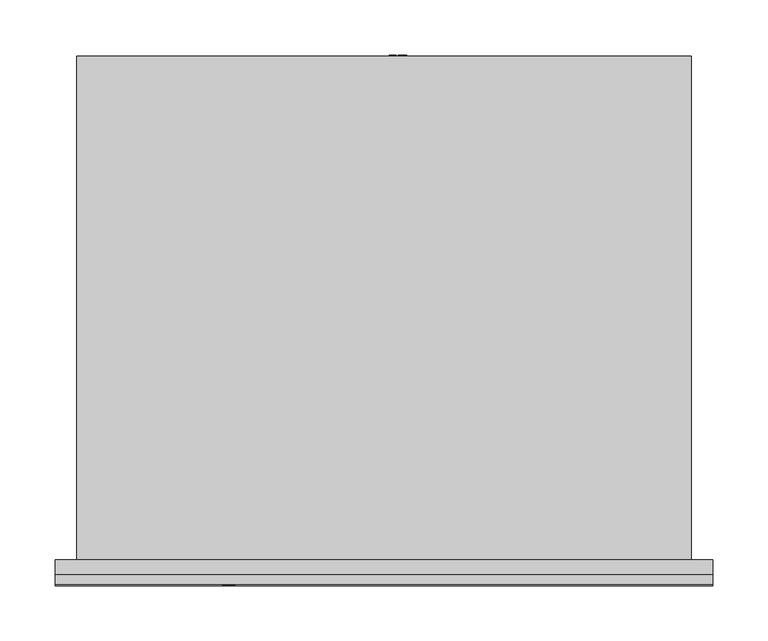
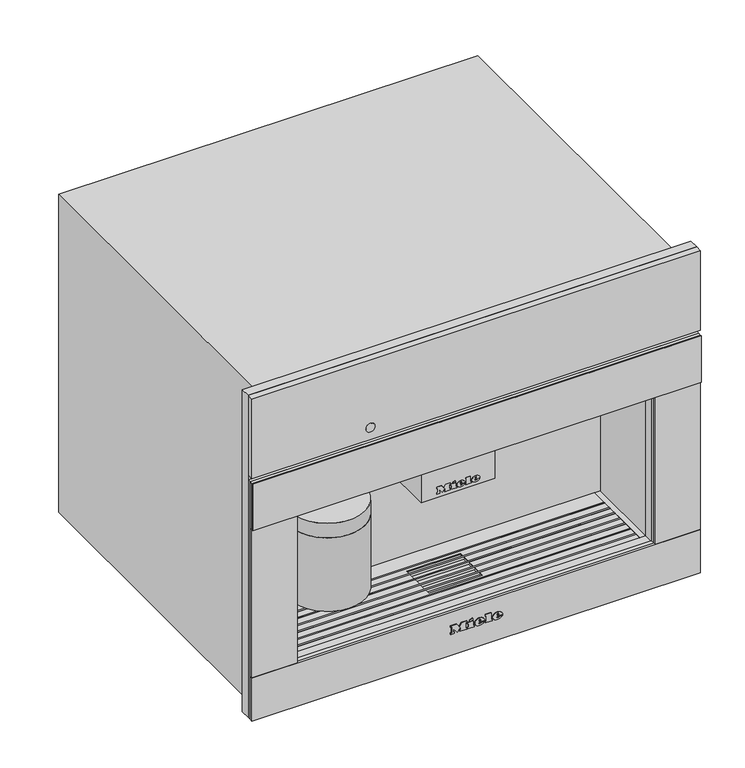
"""IFC4 building model written with IfcOpenShell, lengths in millimetres: proxy geometry, 11165880_NER_CVA7440_EDST-CLST : 29744040_NER_11165880_CVA7440_EDST-CLST."""

from ifc_helpers import new_model, si_unit, point, frame, frame_2d, origin, place, context, project, spatial, polyline, circle_curve, ellipse_curve, trimmed, segment, composite_curve, outline, extrude, faceted_brep, source, transform, mapped, element, save
from ifc_brep_helpers import plane_surface, cylinder_surface, revolved_surface, extruded_surface, advanced_brep


def specialty_equipment_4403b52b(model_context):
    return source(origin(), model_context, "Body", "SolidModel", [
        extrude(outline(composite_curve([segment(trimmed(circle_curve(frame_2d((-14.0, 36.5)), 5.0), [point((-9.0, 36.5))], [point((-19.0, 36.5))], False, "CARTESIAN"), True, "CONTINUOUS"), segment(trimmed(circle_curve(frame_2d((-14.0, 36.5)), 5.0), [point((-19.0, 36.5))], [point((-9.0, 36.5))], False, "CARTESIAN"), True, "CONTINUOUS")], self_intersect=False)), frame((0.0, 0.0, 193.0), z_axis=(0.0, 0.0, 1.0), x_axis=(1.0, 0.0, 0.0)), (0.0, 0.0, 1.0), 5.0),
        extrude(outline(composite_curve([segment(trimmed(circle_curve(frame_2d((14.0, 36.5)), 5.0), [point((19.0, 36.5))], [point((9.0, 36.5))], False, "CARTESIAN"), True, "CONTINUOUS"), segment(trimmed(circle_curve(frame_2d((14.0, 36.5)), 5.0), [point((9.0, 36.5))], [point((19.0, 36.5))], False, "CARTESIAN"), True, "CONTINUOUS")], self_intersect=False)), frame((0.0, 0.0, 193.0), z_axis=(0.0, 0.0, 1.0), x_axis=(1.0, 0.0, 0.0)), (0.0, 0.0, 1.0), 5.0),
        extrude(outline(composite_curve([segment(trimmed(circle_curve(frame_2d((-156.5, 49.5)), 50.0), [point((-106.5, 49.5))], [point((-206.5, 49.5))], False, "CARTESIAN"), True, "CONTINUOUS"), segment(trimmed(circle_curve(frame_2d((-156.5, 49.5)), 50.0), [point((-206.5, 49.5))], [point((-106.5, 49.5))], False, "CARTESIAN"), True, "CONTINUOUS")], self_intersect=False)), frame((0.0, 0.0, 100.0), z_axis=(0.0, 0.0, 1.0), x_axis=(1.0, 0.0, 0.0)), (0.0, 0.0, 1.0), 103.0),
        extrude(outline(polyline([(-49.0, 95.0), (49.0, 95.0), (49.0, 20.0), (-49.0, 20.0), (-49.0, 95.0)])), frame((0.0, 0.0, 198.0), z_axis=(0.0, 0.0, 1.0), x_axis=(1.0, 0.0, 0.0)), (0.0, 0.0, 1.0), 75.0),
        extrude(outline(polyline([(455.5, 297.5), (455.5, -297.5), (4.0, -297.5), (4.0, 297.5), (455.5, 297.5)]), holes=[polyline([(273.0, 237.5), (63.0, 237.5), (63.0, -237.5), (273.0, -237.5), (273.0, 237.5)])]), frame((0.0, -13.0, 0.0), z_axis=(0.0, 1.0, 0.0), x_axis=(0.0, 0.0, 1.0)), (0.0, 0.0, 1.0), 13.0),
        extrude(outline(polyline([(97.0, 20.4012141), (107.045631, 20.4012141), (107.045631, 13.1809168), (105.7899271, 13.1809168), (105.7899271, 19.1455102), (102.8076304, 19.1455102), (102.8076304, 13.4948427), (101.5519266, 13.4948427), (101.5519266, 19.1455102), (98.2557039, 19.1455102), (98.2557039, 13.0239538), (97.0, 13.0239538), (97.0, 20.4012141)])), frame((0.0, 456.0, 0.0), z_axis=(0.0, 1.0, 0.0), x_axis=(0.0, 0.0, 1.0)), (0.0, 0.0, 1.0), 1.0),
        extrude(outline(polyline([(97.0, 11.140398), (107.045631, 11.140398), (107.045631, 9.8846941), (98.2557039, 9.8846941), (98.2557039, 4.8618786), (97.0, 4.8618786), (97.0, 11.140398)])), frame((0.0, 456.0, 0.0), z_axis=(0.0, 1.0, 0.0), x_axis=(0.0, 0.0, 1.0)), (0.0, 0.0, 1.0), 1.0),
        advanced_brep(
        [(55.0, 425.5, 102.0), (55.0, 410.5, 102.0), (20.5239538, 425.5, 102.0), (5.5239538, 410.5, 102.0), (20.5239538, 456.0, 102.0), (5.5239538, 456.0, 102.0)],
        [
            (0, 1, circle_curve(frame((55.0, 418.0, 102.0), z_axis=(1.0, 0.0, 0.0), x_axis=(0.0, -1.0, 0.0)), 7.5)),
            (1, 0, circle_curve(frame((55.0, 418.0, 102.0), z_axis=(1.0, 0.0, 0.0), x_axis=(0.0, -1.0, 0.0)), 7.5)),
            (0, 2),
            (2, 3, ellipse_curve(frame((13.0239538, 418.0, 102.0), z_axis=(0.7071067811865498, -0.7071067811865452, 0.0), x_axis=(0.7071067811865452, 0.7071067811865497, 0.0)), 10.6066017, 7.5)),
            (3, 1),
            (3, 2, ellipse_curve(frame((13.0239538, 418.0, 102.0), z_axis=(0.7071067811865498, -0.7071067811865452, 0.0), x_axis=(0.7071067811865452, 0.7071067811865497, 0.0)), 10.6066017, 7.5)),
            (4, 5, circle_curve(frame((13.0239538, 456.0, 102.0), z_axis=(0.0, 1.0, 0.0), x_axis=(-1.0, 0.0, 0.0)), 7.5)),
            (5, 4, circle_curve(frame((13.0239538, 456.0, 102.0), z_axis=(0.0, 1.0, 0.0), x_axis=(-1.0, 0.0, 0.0)), 7.5)),
            (2, 4),
            (5, 3),
        ],
        [
            plane_surface(frame((55.0, 418.0, 102.0), z_axis=(1.0, 0.0, 0.0), x_axis=(0.0, 0.0, 1.0))),
            cylinder_surface(frame((55.0, 418.0, 102.0), z_axis=(1.0, 0.0, 0.0), x_axis=(0.0, -1.0, 0.0)), 7.5),
            plane_surface(frame((13.0239538, 456.0, 102.0), z_axis=(0.0, 1.0, 0.0), x_axis=(0.0, 0.0, 1.0))),
            cylinder_surface(frame((13.0239538, 418.0, 102.0), z_axis=(0.0, -1.0, 0.0), x_axis=(-1.0, 0.0, 0.0)), 7.5),
        ],
        [
            (0, [[1, 2]]),
            (1, [[-1, 3, 4, 5]]),
            (1, [[-2, -5, 6, -3]]),
            (2, [[7, 8]]),
            (3, [[-4, 9, -8, 10]]),
            (3, [[-6, -10, -7, -9]]),
        ],
    ),
        advanced_brep(
        [(-110.0, 49.5, 252.0), (-203.0, 49.5, 252.0), (-206.5, 49.5, 223.5), (-106.5, 49.5, 223.5), (-110.0, 49.5, 273.0), (-203.0, 49.5, 273.0), (-156.5, 49.5, 273.0), (-106.5, 49.5, 203.0), (-206.5, 49.5, 203.0), (-156.5, 49.5, 203.0)],
        [
            (0, 1, circle_curve(frame((-156.5, 49.5, 252.0), z_axis=(0.0, 0.0, -1.0), x_axis=(-1.0, 0.0, 0.0)), 46.5)),
            (1, 2, circle_curve(frame((-206.7961166, 49.5, 238.0012775), z_axis=(0.0, 1.0, 0.0), x_axis=(-1.0, 0.0, 0.0)), 14.5043005)),
            (2, 3, circle_curve(frame((-156.5, 49.5, 223.5), z_axis=(0.0, 0.0, 1.0), x_axis=(-1.0, 0.0, 0.0)), 50.0)),
            (3, 0, circle_curve(frame((-106.2038834, 49.5, 238.0012775), z_axis=(0.0, 1.0, 0.0), x_axis=(1.0, 0.0, 0.0)), 14.5043005)),
            (4, 5, circle_curve(frame((-156.5, 49.5, 273.0), z_axis=(0.0, 0.0, -1.0), x_axis=(-1.0, 0.0, 0.0)), 46.5)),
            (5, 1),
            (0, 4),
            (6, 4),
            (4, 5, circle_curve(frame((-156.5, 49.5, 273.0), z_axis=(0.0, 0.0, 1.0), x_axis=(-1.0, 0.0, 0.0)), 46.5)),
            (5, 6),
            (7, 8, circle_curve(frame((-156.5, 49.5, 203.0), z_axis=(0.0, 0.0, -1.0), x_axis=(-1.0, 0.0, 0.0)), 50.0)),
            (8, 9),
            (9, 7),
            (8, 7, circle_curve(frame((-156.5, 49.5, 203.0), z_axis=(0.0, 0.0, -1.0), x_axis=(-1.0, 0.0, 0.0)), 50.0)),
            (2, 8),
            (7, 3),
            (2, 3, circle_curve(frame((-156.5, 49.5, 223.5), z_axis=(0.0, 0.0, -1.0), x_axis=(-1.0, 0.0, 0.0)), 50.0)),
            (1, 0, circle_curve(frame((-156.5, 49.5, 252.0), z_axis=(0.0, 0.0, -1.0), x_axis=(-1.0, 0.0, 0.0)), 46.5)),
        ],
        [
            revolved_surface(trimmed(ellipse_curve(frame((-206.7961166, 49.5, 238.0012775), z_axis=(0.0, -1.0, 0.0), x_axis=(-1.0, 0.0, 0.0)), 14.5043005, 14.5043005), [point((-206.5, 49.5, 223.5))], [point((-203.0, 49.5, 252.0))], True, "CARTESIAN"), (-156.5, 49.5, 388.7361736), (0.0, 0.0, 1.0)),
            cylinder_surface(frame((-156.5, 49.5, 388.7361736), z_axis=(0.0, 0.0, 1.0), x_axis=(-1.0, 0.0, 0.0)), 46.5),
            plane_surface(frame((-156.5, 49.5, 273.0), z_axis=(0.0, 0.0, 1.0), x_axis=(-1.0, 0.0, 0.0))),
            plane_surface(frame((-156.5, 49.5, 203.0), z_axis=(0.0, 0.0, -1.0), x_axis=(-1.0, 0.0, 0.0))),
            cylinder_surface(frame((-156.5, 49.5, 388.7361736), z_axis=(0.0, 0.0, 1.0), x_axis=(-1.0, 0.0, 0.0)), 50.0),
        ],
        [
            (0, [[1, 2, 3, 4]]),
            (1, [[5, 6, -1, 7]]),
            (2, [[8, 9, 10]]),
            (3, [[11, 12, 13]]),
            (3, [[14, -13, -12]]),
            (4, [[-3, 15, -11, 16]]),
            (4, [[17, -16, -14, -15]]),
            (0, [[18, -4, -17, -2]]),
            (1, [[-9, -7, -18, -6]]),
            (2, [[-10, -5, -8]]),
        ],
    ),
        faceted_brep([(229.5, 82.0925571, 60.0), (229.5, 80.0925571, 60.0), (-229.5, 80.0925571, 60.0), (-229.5, 82.0925571, 60.0), (229.5, 70.0550731, 60.0), (229.5, 68.0550731, 60.0), (-229.5, 68.0550731, 60.0), (-229.5, 70.0550731, 60.0), (229.5, 58.0175891, 60.0), (229.5, 56.0175891, 60.0), (-229.5, 56.0175891, 60.0), (-229.5, 58.0175891, 60.0), (229.5, 45.9801052, 60.0), (229.5, 43.9801052, 60.0), (-229.5, 43.9801052, 60.0), (-229.5, 45.9801052, 60.0), (229.5, 33.9426212, 60.0), (229.5, 31.9426212, 60.0), (-229.5, 31.9426212, 60.0), (-229.5, 33.9426212, 60.0), (229.5, 21.9776522, 60.0), (229.5, 19.9776522, 60.0), (-229.5, 19.9776522, 60.0), (-229.5, 21.9776522, 60.0), (229.5, 10.0, 60.0), (229.5, 8.0, 60.0), (-229.5, 8.0, 60.0), (-229.5, 10.0, 60.0), (-229.5, 45.9801052, 62.0), (-36.0, 45.9801052, 62.0), (-36.0, 45.9801052, 63.0), (-229.5, 45.9801052, 63.0), (-229.5, 45.9801052, 63.5), (229.5, 45.9801052, 63.5), (229.5, 45.9801052, 63.0), (36.0, 45.9801052, 63.0), (36.0, 45.9801052, 62.0), (229.5, 45.9801052, 62.0), (229.5, 19.9776522, 62.0), (229.5, 10.0, 62.0), (-229.5, 10.0, 62.0), (-229.5, 19.9776522, 62.0), (229.5, 43.9801052, 62.0), (229.5, 33.9426212, 62.0), (36.0, 33.9426212, 62.0), (36.0, 43.9801052, 62.0), (229.5, 56.0175891, 62.0), (36.0, 56.0175891, 62.0), (229.5, 68.0550731, 62.0), (229.5, 58.0175891, 62.0), (36.0, 58.0175891, 62.0), (36.0, 68.0550731, 62.0), (-229.5, 33.9426212, 62.0), (-229.5, 43.9801052, 62.0), (-36.0, 43.9801052, 62.0), (-36.0, 33.9426212, 62.0), (-229.5, 56.0175891, 62.0), (-36.0, 56.0175891, 62.0), (-229.5, 58.0175891, 62.0), (-229.5, 68.0550731, 62.0), (-36.0, 68.0550731, 62.0), (-36.0, 58.0175891, 62.0), (-229.5, 104.5, 62.0), (229.5, 104.5, 62.0), (229.5, 82.0925571, 62.0), (-229.5, 82.0925571, 62.0), (36.0, 76.0, 62.0), (-36.0, 76.0, 62.0), (-36.0, 70.0550731, 62.0), (-229.5, 70.0550731, 62.0), (-229.5, 80.0925571, 62.0), (229.5, 80.0925571, 62.0), (229.5, 70.0550731, 62.0), (36.0, 70.0550731, 62.0), (229.5, 0.0, 62.0), (-229.5, 0.0, 62.0), (-229.5, 8.0, 62.0), (229.5, 8.0, 62.0), (-36.0, 25.0, 62.0), (36.0, 25.0, 62.0), (36.0, 31.9426212, 62.0), (229.5, 31.9426212, 62.0), (229.5, 21.9776522, 62.0), (-229.5, 21.9776522, 62.0), (-229.5, 31.9426212, 62.0), (-36.0, 31.9426212, 62.0), (229.5, 104.5, 63.0), (-229.5, 104.5, 63.0), (-229.5, 82.0925571, 63.0), (229.5, 82.0925571, 63.0), (-229.5, 0.0, 63.0), (229.5, 0.0, 63.0), (229.5, 8.0, 63.0), (-229.5, 8.0, 63.0), (-36.0, 76.0, 63.0), (36.0, 76.0, 63.0), (36.0, 70.0550731, 63.0), (229.5, 70.0550731, 63.0), (229.5, 80.0925571, 63.0), (-229.5, 80.0925571, 63.0), (-229.5, 70.0550731, 63.0), (-36.0, 70.0550731, 63.0), (36.0, 25.0, 63.0), (-36.0, 25.0, 63.0), (-36.0, 31.9426212, 63.0), (-229.5, 31.9426212, 63.0), (-229.5, 21.9776522, 63.0), (229.5, 21.9776522, 63.0), (229.5, 31.9426212, 63.0), (36.0, 31.9426212, 63.0), (-229.5, 19.9776522, 63.0), (-229.5, 10.0, 63.0), (229.5, 10.0, 63.0), (229.5, 19.9776522, 63.0), (-229.5, 43.9801052, 63.0), (-229.5, 33.9426212, 63.0), (-36.0, 33.9426212, 63.0), (-36.0, 43.9801052, 63.0), (-229.5, 56.0175891, 63.0), (-36.0, 56.0175891, 63.0), (-229.5, 68.0550731, 63.0), (-229.5, 58.0175891, 63.0), (-36.0, 58.0175891, 63.0), (-36.0, 68.0550731, 63.0), (229.5, 33.9426212, 63.0), (229.5, 43.9801052, 63.0), (36.0, 43.9801052, 63.0), (36.0, 33.9426212, 63.0), (229.5, 56.0175891, 63.0), (36.0, 56.0175891, 63.0), (229.5, 58.0175891, 63.0), (229.5, 68.0550731, 63.0), (36.0, 68.0550731, 63.0), (36.0, 58.0175891, 63.0), (-229.5, 8.0, 63.5), (-229.5, 10.0, 63.5), (-229.5, 19.9776522, 63.5), (-229.5, 21.9776522, 63.5), (-229.5, 31.9426212, 63.5), (-229.5, 33.9426212, 63.5), (-229.5, 43.9801052, 63.5), (-229.5, 56.0175891, 63.5), (-229.5, 58.0175891, 63.5), (-229.5, 68.0550731, 63.5), (-229.5, 70.0550731, 63.5), (-229.5, 80.0925571, 63.5), (-229.5, 82.0925571, 63.5), (229.5, 82.0925571, 63.5), (229.5, 80.0925571, 63.5), (229.5, 70.0550731, 63.5), (229.5, 68.0550731, 63.5), (229.5, 58.0175891, 63.5), (229.5, 56.0175891, 63.5), (229.5, 43.9801052, 63.5), (229.5, 33.9426212, 63.5), (229.5, 31.9426212, 63.5), (229.5, 21.9776522, 63.5), (229.5, 19.9776522, 63.5), (229.5, 10.0, 63.5), (229.5, 8.0, 63.5)], [[[0, 1, 2, 3]], [[4, 5, 6, 7]], [[8, 9, 10, 11]], [[12, 13, 14, 15]], [[16, 17, 18, 19]], [[20, 21, 22, 23]], [[24, 25, 26, 27]], [[12, 15, 28, 29, 30, 31, 32, 33, 34, 35, 36, 37]], [[38, 39, 40, 41]], [[42, 43, 44, 45]], [[46, 37, 36, 47]], [[48, 49, 50, 51]], [[52, 53, 54, 55]], [[28, 56, 57, 29]], [[58, 59, 60, 61]], [[62, 63, 64, 65]], [[66, 67, 68, 69, 70, 71, 72, 73]], [[74, 75, 76, 77]], [[78, 79, 80, 81, 82, 83, 84, 85]], [[86, 87, 88, 89]], [[90, 91, 92, 93]], [[94, 95, 96, 97, 98, 99, 100, 101]], [[102, 103, 104, 105, 106, 107, 108, 109]], [[110, 111, 112, 113]], [[114, 115, 116, 117]], [[118, 31, 30, 119]], [[120, 121, 122, 123]], [[124, 125, 126, 127]], [[34, 128, 129, 35]], [[130, 131, 132, 133]], [[63, 62, 87, 86]], [[87, 62, 65, 3, 2, 70, 69, 7, 6, 59, 58, 11, 10, 56, 28, 15, 14, 53, 52, 19, 18, 84, 83, 23, 22, 41, 40, 27, 26, 76, 75, 90, 93, 134, 135, 111, 110, 136, 137, 106, 105, 138, 139, 115, 114, 140, 32, 31, 118, 141, 142, 121, 120, 143, 144, 100, 99, 145, 146, 88]], [[75, 74, 91, 90]], [[63, 86, 89, 147, 148, 98, 97, 149, 150, 131, 130, 151, 152, 128, 34, 33, 153, 125, 124, 154, 155, 108, 107, 156, 157, 113, 112, 158, 159, 92, 91, 74, 77, 25, 24, 39, 38, 21, 20, 82, 81, 17, 16, 43, 42, 13, 12, 37, 46, 9, 8, 49, 48, 5, 4, 72, 71, 1, 0, 64]], [[66, 95, 94, 67]], [[55, 54, 117, 116]], [[29, 57, 119, 30]], [[61, 60, 123, 122]], [[67, 94, 101, 68]], [[103, 78, 85, 104]], [[78, 103, 102, 79]], [[45, 44, 127, 126]], [[47, 36, 35, 129]], [[51, 50, 133, 132]], [[95, 66, 73, 96]], [[79, 102, 109, 80]], [[158, 135, 134, 159]], [[156, 137, 136, 157]], [[154, 139, 138, 155]], [[33, 32, 140, 153]], [[151, 142, 141, 152]], [[149, 144, 143, 150]], [[147, 146, 145, 148]], [[24, 27, 40, 39]], [[135, 158, 112, 111]], [[26, 25, 77, 76]], [[159, 134, 93, 92]], [[20, 23, 83, 82]], [[137, 156, 107, 106]], [[22, 21, 38, 41]], [[157, 136, 110, 113]], [[16, 19, 52, 55, 116, 115, 139, 154, 124, 127, 44, 43]], [[18, 17, 81, 80, 109, 108, 155, 138, 105, 104, 85, 84]], [[14, 13, 42, 45, 126, 125, 153, 140, 114, 117, 54, 53]], [[8, 11, 58, 61, 122, 121, 142, 151, 130, 133, 50, 49]], [[10, 9, 46, 47, 129, 128, 152, 141, 118, 119, 57, 56]], [[4, 7, 69, 68, 101, 100, 144, 149, 97, 96, 73, 72]], [[6, 5, 48, 51, 132, 131, 150, 143, 120, 123, 60, 59]], [[0, 3, 65, 64]], [[146, 147, 89, 88]], [[2, 1, 71, 70]], [[148, 145, 99, 98]]]),
        faceted_brep([(-278.0, 456.0, 0.0), (-278.0, 0.0, 0.0), (-278.0, 0.0, 446.0), (-278.0, 456.0, 446.0), (278.0, 456.0, 0.0), (278.0, 456.0, 446.0), (278.0, 0.0, 446.0), (278.0, 0.0, 0.0), (55.0, 456.0, 133.0), (-22.0, 456.0, 133.0), (-22.0, 456.0, 89.0), (35.0, 456.0, 66.0), (55.0, 456.0, 66.0), (-36.0, 76.0, 58.0), (36.0, 76.0, 58.0), (36.0, 76.0, 62.0), (-36.0, 76.0, 62.0), (36.0, 25.0, 58.0), (-36.0, 25.0, 58.0), (-36.0, 25.0, 62.0), (36.0, 25.0, 62.0), (237.5, 0.0, 273.0), (237.5, 0.0, 63.0), (229.5, 0.0, 63.0), (229.5, 0.0, 62.0), (-229.5, 0.0, 62.0), (-229.5, 0.0, 63.0), (-237.5, 0.0, 63.0), (-237.5, 0.0, 273.0), (237.5, 104.5, 273.0), (-237.5, 104.5, 273.0), (-237.5, 104.5, 63.0), (-229.5, 104.5, 63.0), (-229.5, 104.5, 62.0), (229.5, 104.5, 62.0), (229.5, 104.5, 63.0), (237.5, 104.5, 63.0), (-22.0, 400.0, 133.0), (55.0, 400.0, 133.0), (55.0, 400.0, 66.0), (35.0, 400.0, 66.0), (-22.0, 400.0, 89.0)], [[[0, 1, 2, 3]], [[4, 5, 6, 7]], [[0, 3, 5, 4], [8, 9, 10, 11, 12]], [[13, 14, 15, 16]], [[17, 18, 19, 20]], [[3, 2, 6, 5]], [[2, 1, 7, 6], [21, 22, 23, 24, 25, 26, 27, 28]], [[1, 0, 4, 7]], [[29, 30, 31, 32, 33, 34, 35, 36]], [[29, 36, 22, 21]], [[22, 36, 35, 23]], [[31, 27, 26, 32]], [[31, 30, 28, 27]], [[30, 29, 21, 28]], [[34, 33, 25, 24], [16, 15, 20, 19]], [[25, 33, 32, 26]], [[34, 24, 23, 35]], [[14, 13, 18, 17]], [[18, 13, 16, 19]], [[14, 17, 20, 15]], [[37, 38, 39, 40, 41]], [[38, 37, 9, 8]], [[39, 38, 8, 12]], [[40, 39, 12, 11]], [[41, 40, 11, 10]], [[37, 41, 10, 9]]]),
        advanced_brep(
        [(27.088, -23.0, 36.7018), (27.088, -23.0, 37.8532), (34.7146, -23.0, 37.8532), (21.445, -23.0, 37.8532), (24.58, -23.0, 34.0), (34.5208, -23.0, 36.7018), (31.078, -23.0, 36.7018), (28.3648, -23.0, 35.425), (27.088, -23.0, 39.3124), (27.088, -23.0, 40.555), (29.0374, -23.0, 40.555), (29.0374, -23.0, 39.3124), (27.088, -22.0, 36.7018), (28.3648, -22.0, 35.425), (31.078, -22.0, 36.7018), (34.5208, -22.0, 36.7018), (24.58, -22.0, 34.0), (21.445, -22.0, 37.8532), (34.7146, -22.0, 37.8532), (27.088, -22.0, 37.8532), (27.088, -22.0, 39.3124), (29.0374, -22.0, 39.3124), (29.0374, -22.0, 40.555), (27.088, -22.0, 40.555)],
        [
            (0, 1),
            (1, 2),
            (2, 3, ellipse_curve(frame((28.0798, -23.0, 37.8532), z_axis=(0.0, -1.0, 0.0), x_axis=(-1.0, 0.0, 0.0)), 6.6348, 5.4834)),
            (3, 4, circle_curve(frame((25.8568622, -23.0, 38.2408), z_axis=(0.0, -1.0, 0.0), x_axis=(0.0, 0.0, -1.0)), 4.4288556)),
            (4, 5, circle_curve(frame((27.9469808, -23.0, 41.2504), z_axis=(0.0, -1.0, 0.0), x_axis=(0.0, 0.0, -1.0)), 7.9940516)),
            (5, 6),
            (6, 7, circle_curve(frame((28.9220588, -23.0, 37.762), z_axis=(0.0, 1.0, 0.0), x_axis=(0.0, 0.0, -1.0)), 2.4025208)),
            (7, 0, circle_curve(frame((28.3648, -23.0, 36.7018), z_axis=(0.0, 1.0, 0.0), x_axis=(0.0, 0.0, -1.0)), 1.2768)),
            (8, 9),
            (9, 10, circle_curve(frame((28.0627, -23.0, 40.555), z_axis=(0.0, 1.0, 0.0), x_axis=(0.0, 0.0, -1.0)), 0.9747)),
            (10, 11),
            (11, 8),
            (12, 13, circle_curve(frame((28.3648, -22.0, 36.7018), z_axis=(0.0, -1.0, 0.0), x_axis=(0.0, 0.0, -1.0)), 1.2768)),
            (13, 14, circle_curve(frame((28.9220588, -22.0, 37.762), z_axis=(0.0, -1.0, 0.0), x_axis=(0.0, 0.0, -1.0)), 2.4025208)),
            (14, 15),
            (15, 16, circle_curve(frame((27.9469808, -22.0, 41.2504), z_axis=(0.0, 1.0, 0.0), x_axis=(0.0, 0.0, -1.0)), 7.9940516)),
            (16, 17, circle_curve(frame((25.8568622, -22.0, 38.2408), z_axis=(0.0, 1.0, 0.0), x_axis=(0.0, 0.0, -1.0)), 4.4288556)),
            (17, 18, ellipse_curve(frame((28.0798, -22.0, 37.8532), z_axis=(0.0, 1.0, 0.0), x_axis=(-1.0, 0.0, 0.0)), 6.6348, 5.4834)),
            (18, 19),
            (19, 12),
            (20, 21),
            (21, 22),
            (22, 23, circle_curve(frame((28.0627, -22.0, 40.555), z_axis=(0.0, -1.0, 0.0), x_axis=(0.0, 0.0, -1.0)), 0.9747)),
            (23, 20),
            (0, 12),
            (19, 1),
            (18, 2),
            (5, 15),
            (14, 6),
            (17, 3),
            (13, 7),
            (16, 4),
            (8, 20),
            (23, 9),
            (22, 10),
            (21, 11),
        ],
        [
            plane_surface(frame((27.088, -23.0, 37.8532), z_axis=(0.0, -1.0, 0.0), x_axis=(0.0, 0.0, 1.0))),
            plane_surface(frame((27.088, -22.0, 37.8532), z_axis=(0.0, 1.0, 0.0), x_axis=(0.0, 0.0, -1.0))),
            plane_surface(frame((27.088, -23.0, 36.7018), z_axis=(1.0, 0.0, 0.0), x_axis=(0.0, 1.0, 0.0))),
            plane_surface(frame((27.088, -23.0, 37.8532), z_axis=(0.0, 0.0, -1.0), x_axis=(0.0, 1.0, 0.0))),
            plane_surface(frame((34.5208, -23.0, 36.7018), z_axis=(0.0, 0.0, 1.0), x_axis=(0.0, 1.0, 0.0))),
            extruded_surface(trimmed(ellipse_curve(frame((28.0798, -21.0, 37.8532), z_axis=(0.0, -1.0, 0.0), x_axis=(-1.0, 0.0, 0.0)), 6.6348, 5.4834), [point((34.7146, -21.0, 37.8532))], [point((21.445, -21.0, 37.8532))], True, "CARTESIAN"), (0.0, -1.0, 0.0), 1.0),
            revolved_surface(polyline([(28.9220588, -22.0, 35.3594792), (28.9220588, -23.0, 35.3594792)]), (28.9220588, -22.0, 37.762), (0.0, 1.0, 0.0)),
            revolved_surface(polyline([(28.3648, -22.0, 35.425), (28.3648, -23.0, 35.425)]), (28.3648, -22.0, 36.7018), (0.0, 1.0, 0.0)),
            cylinder_surface(frame((25.8568622, -22.0, 38.2408), z_axis=(0.0, -1.0, 0.0), x_axis=(0.0, 0.0, -1.0)), 4.4288556),
            cylinder_surface(frame((27.9469808, -22.0, 41.2504), z_axis=(0.0, -1.0, 0.0), x_axis=(0.0, 0.0, -1.0)), 7.9940516),
            plane_surface(frame((27.088, -23.0, 39.3124), z_axis=(1.0, 0.0, 0.0), x_axis=(0.0, 1.0, 0.0))),
            revolved_surface(polyline([(28.0627, -22.0, 39.5803), (28.0627, -23.0, 39.5803)]), (28.0627, -22.0, 40.555), (0.0, 1.0, 0.0)),
            plane_surface(frame((29.0374, -23.0, 40.555), z_axis=(-1.0, 0.0, 0.0), x_axis=(0.0, 1.0, 0.0))),
            plane_surface(frame((29.0374, -23.0, 39.3124), z_axis=(0.0, 0.0, 1.0), x_axis=(0.0, 1.0, 0.0))),
        ],
        [
            (0, [[1, 2, 3, 4, 5, 6, 7, 8], [9, 10, 11, 12]]),
            (1, [[13, 14, 15, 16, 17, 18, 19, 20], [21, 22, 23, 24]]),
            (2, [[-1, 25, -20, 26]]),
            (3, [[-2, -26, -19, 27]]),
            (4, [[-6, 28, -15, 29]]),
            (5, [[-3, -27, -18, 30]]),
            (6, [[-7, -29, -14, 31]]),
            (7, [[-8, -31, -13, -25]]),
            (8, [[-4, -30, -17, 32]]),
            (9, [[-5, -32, -16, -28]]),
            (10, [[-9, 33, -24, 34]]),
            (11, [[-10, -34, -23, 35]]),
            (12, [[-11, -35, -22, 36]]),
            (13, [[-12, -36, -21, -33]]),
        ],
    ),
        advanced_brep(
        [(3.2962, -23.0, 36.7018), (3.2962, -23.0, 37.8532), (10.9228, -23.0, 37.8532), (-2.3468, -23.0, 37.8532), (0.7882, -23.0, 34.0), (10.729, -23.0, 36.7018), (7.2862, -23.0, 36.7018), (4.573, -23.0, 35.425), (3.2962, -23.0, 39.3124), (3.2962, -23.0, 40.555), (5.2456, -23.0, 40.555), (5.2456, -23.0, 39.3124), (3.2962, -22.0, 36.7018), (4.573, -22.0, 35.425), (7.2862, -22.0, 36.7018), (10.729, -22.0, 36.7018), (0.7882, -22.0, 34.0), (-2.3468, -22.0, 37.8532), (10.9228, -22.0, 37.8532), (3.2962, -22.0, 37.8532), (3.2962, -22.0, 39.3124), (5.2456, -22.0, 39.3124), (5.2456, -22.0, 40.555), (3.2962, -22.0, 40.555)],
        [
            (0, 1),
            (1, 2),
            (2, 3, ellipse_curve(frame((4.288, -23.0, 37.8532), z_axis=(0.0, -1.0, 0.0), x_axis=(-1.0, 0.0, 0.0)), 6.6348, 5.4834)),
            (3, 4, circle_curve(frame((2.0650622, -23.0, 38.2408), z_axis=(0.0, -1.0, 0.0), x_axis=(0.0, 0.0, -1.0)), 4.4288556)),
            (4, 5, circle_curve(frame((4.1551808, -23.0, 41.2504), z_axis=(0.0, -1.0, 0.0), x_axis=(0.0, 0.0, -1.0)), 7.9940516)),
            (5, 6),
            (6, 7, circle_curve(frame((5.1302588, -23.0, 37.762), z_axis=(0.0, 1.0, 0.0), x_axis=(0.0, 0.0, -1.0)), 2.4025208)),
            (7, 0, circle_curve(frame((4.573, -23.0, 36.7018), z_axis=(0.0, 1.0, 0.0), x_axis=(0.0, 0.0, -1.0)), 1.2768)),
            (8, 9),
            (9, 10, circle_curve(frame((4.2709, -23.0, 40.555), z_axis=(0.0, 1.0, 0.0), x_axis=(0.0, 0.0, -1.0)), 0.9747)),
            (10, 11),
            (11, 8),
            (12, 13, circle_curve(frame((4.573, -22.0, 36.7018), z_axis=(0.0, -1.0, 0.0), x_axis=(0.0, 0.0, -1.0)), 1.2768)),
            (13, 14, circle_curve(frame((5.1302588, -22.0, 37.762), z_axis=(0.0, -1.0, 0.0), x_axis=(0.0, 0.0, -1.0)), 2.4025208)),
            (14, 15),
            (15, 16, circle_curve(frame((4.1551808, -22.0, 41.2504), z_axis=(0.0, 1.0, 0.0), x_axis=(0.0, 0.0, -1.0)), 7.9940516)),
            (16, 17, circle_curve(frame((2.0650622, -22.0, 38.2408), z_axis=(0.0, 1.0, 0.0), x_axis=(0.0, 0.0, -1.0)), 4.4288556)),
            (17, 18, ellipse_curve(frame((4.288, -22.0, 37.8532), z_axis=(0.0, 1.0, 0.0), x_axis=(-1.0, 0.0, 0.0)), 6.6348, 5.4834)),
            (18, 19),
            (19, 12),
            (20, 21),
            (21, 22),
            (22, 23, circle_curve(frame((4.2709, -22.0, 40.555), z_axis=(0.0, -1.0, 0.0), x_axis=(0.0, 0.0, -1.0)), 0.9747)),
            (23, 20),
            (0, 12),
            (19, 1),
            (18, 2),
            (5, 15),
            (14, 6),
            (17, 3),
            (13, 7),
            (16, 4),
            (8, 20),
            (23, 9),
            (22, 10),
            (21, 11),
        ],
        [
            plane_surface(frame((3.2962, -23.0, 37.8532), z_axis=(0.0, -1.0, 0.0), x_axis=(0.0, 0.0, 1.0))),
            plane_surface(frame((3.2962, -22.0, 37.8532), z_axis=(0.0, 1.0, 0.0), x_axis=(0.0, 0.0, -1.0))),
            plane_surface(frame((3.2962, -23.0, 36.7018), z_axis=(1.0, 0.0, 0.0), x_axis=(0.0, 1.0, 0.0))),
            plane_surface(frame((3.2962, -23.0, 37.8532), z_axis=(0.0, 0.0, -1.0), x_axis=(0.0, 1.0, 0.0))),
            plane_surface(frame((10.729, -23.0, 36.7018), z_axis=(0.0, 0.0, 1.0), x_axis=(0.0, 1.0, 0.0))),
            extruded_surface(trimmed(ellipse_curve(frame((4.288, -21.0, 37.8532), z_axis=(0.0, -1.0, 0.0), x_axis=(-1.0, 0.0, 0.0)), 6.6348, 5.4834), [point((10.9228, -21.0, 37.8532))], [point((-2.3468, -21.0, 37.8532))], True, "CARTESIAN"), (0.0, -1.0, 0.0), 1.0),
            revolved_surface(polyline([(5.1302588, -22.0, 35.3594792), (5.1302588, -23.0, 35.3594792)]), (5.1302588, -22.0, 37.762), (0.0, 1.0, 0.0)),
            revolved_surface(polyline([(4.573, -22.0, 35.425), (4.573, -23.0, 35.425)]), (4.573, -22.0, 36.7018), (0.0, 1.0, 0.0)),
            cylinder_surface(frame((2.0650622, -22.0, 38.2408), z_axis=(0.0, -1.0, 0.0), x_axis=(0.0, 0.0, -1.0)), 4.4288556),
            cylinder_surface(frame((4.1551808, -22.0, 41.2504), z_axis=(0.0, -1.0, 0.0), x_axis=(0.0, 0.0, -1.0)), 7.9940516),
            plane_surface(frame((3.2962, -23.0, 39.3124), z_axis=(1.0, 0.0, 0.0), x_axis=(0.0, 1.0, 0.0))),
            revolved_surface(polyline([(4.2709, -22.0, 39.5803), (4.2709, -23.0, 39.5803)]), (4.2709, -22.0, 40.555), (0.0, 1.0, 0.0)),
            plane_surface(frame((5.2456, -23.0, 40.555), z_axis=(-1.0, 0.0, 0.0), x_axis=(0.0, 1.0, 0.0))),
            plane_surface(frame((5.2456, -23.0, 39.3124), z_axis=(0.0, 0.0, 1.0), x_axis=(0.0, 1.0, 0.0))),
        ],
        [
            (0, [[1, 2, 3, 4, 5, 6, 7, 8], [9, 10, 11, 12]]),
            (1, [[13, 14, 15, 16, 17, 18, 19, 20], [21, 22, 23, 24]]),
            (2, [[-1, 25, -20, 26]]),
            (3, [[-2, -26, -19, 27]]),
            (4, [[-6, 28, -15, 29]]),
            (5, [[-3, -27, -18, 30]]),
            (6, [[-7, -29, -14, 31]]),
            (7, [[-8, -31, -13, -25]]),
            (8, [[-4, -30, -17, 32]]),
            (9, [[-5, -32, -16, -28]]),
            (10, [[-9, 33, -24, 34]]),
            (11, [[-10, -34, -23, 35]]),
            (12, [[-11, -35, -22, 36]]),
            (13, [[-12, -36, -21, -33]]),
        ],
    ),
        extrude(outline(polyline([(44.7274, -9.164), (42.8806, -8.2976), (44.6818, -4.433), (46.5286, -5.288), (44.7274, -9.164)])), frame((0.0, -23.0, 0.0), z_axis=(0.0, 1.0, 0.0), x_axis=(0.0, 0.0, 1.0)), (0.0, 0.0, 1.0), 1.0),
        extrude(outline(polyline([(42.6298, -11.9798), (40.5892, -11.9798), (40.5892, -10.6232), (35.9152, -10.6232), (35.9152, -11.9798), (34.0, -11.9798), (34.0, -2.9852), (35.9152, -2.9852), (35.9152, -4.3076), (42.6298, -4.3076), (42.6298, -11.9798)])), frame((0.0, -23.0, 0.0), z_axis=(0.0, 1.0, 0.0), x_axis=(0.0, 0.0, 1.0)), (0.0, 0.0, 1.0), 1.0),
        extrude(outline(polyline([(43.5418, 11.5612), (43.5418, 12.9292), (35.9152, 12.9292), (35.9152, 11.5612), (34.0, 11.5612), (34.0, 20.8066), (35.9152, 20.8066), (35.9152, 19.4044), (45.4, 19.4044), (45.4, 11.5612), (43.5418, 11.5612)])), frame((0.0, -23.0, 0.0), z_axis=(0.0, 1.0, 0.0), x_axis=(0.0, 0.0, 1.0)), (0.0, 0.0, 1.0), 1.0),
        extrude(outline(polyline([(43.5418, -34.7), (43.5418, -33.3206), (35.9152, -33.3206), (35.9152, -34.7), (34.0, -34.7), (34.0, -29.684), (35.9152, -29.684), (35.9152, -31.052), (40.7429247, -31.052), (34.0, -25.9562), (40.9402223, -20.8376), (35.9152, -20.8376), (35.9152, -22.2398), (34.0, -22.2398), (34.0, -13.1426), (35.9152, -13.1426), (35.9152, -14.5904), (43.5418, -14.5904), (43.5418, -13.1426), (45.4, -13.1426), (45.4, -20.0852), (41.125, -23.414), (45.4, -26.7542), (45.4, -34.7), (43.5418, -34.7)])), frame((0.0, -23.0, 0.0), z_axis=(0.0, 1.0, 0.0), x_axis=(0.0, 0.0, 1.0)), (0.0, 0.0, 1.0), 1.0),
        advanced_brep(
        [(22.348, 19.0, 205.5278), (22.348, 19.0, 206.4772), (28.6366, 19.0, 206.4772), (17.695, 19.0, 206.4772), (20.28, 19.0, 203.3), (28.4768, 19.0, 205.5278), (25.638, 19.0, 205.5278), (23.4008, 19.0, 204.475), (22.348, 19.0, 207.6804), (22.348, 19.0, 208.705), (23.9554, 19.0, 208.705), (23.9554, 19.0, 207.6804), (22.348, 20.0, 205.5278), (23.4008, 20.0, 204.475), (25.638, 20.0, 205.5278), (28.4768, 20.0, 205.5278), (20.28, 20.0, 203.3), (17.695, 20.0, 206.4772), (28.6366, 20.0, 206.4772), (22.348, 20.0, 206.4772), (22.348, 20.0, 207.6804), (23.9554, 20.0, 207.6804), (23.9554, 20.0, 208.705), (22.348, 20.0, 208.705)],
        [
            (0, 1),
            (1, 2),
            (2, 3, ellipse_curve(frame((23.1658, 19.0, 206.4772), z_axis=(0.0, -1.0, 0.0), x_axis=(-1.0, 0.0, 0.0)), 5.4708, 4.5214)),
            (3, 4, circle_curve(frame((21.3328513, 19.0, 206.7968), z_axis=(0.0, -1.0, 0.0), x_axis=(0.0, 0.0, -1.0)), 3.6518634)),
            (4, 5, circle_curve(frame((23.0562825, 19.0, 209.2784), z_axis=(0.0, -1.0, 0.0), x_axis=(0.0, 0.0, -1.0)), 6.5915864)),
            (5, 6),
            (6, 7, circle_curve(frame((23.8602941, 19.0, 206.402), z_axis=(0.0, 1.0, 0.0), x_axis=(0.0, 0.0, -1.0)), 1.981026)),
            (7, 0, circle_curve(frame((23.4008, 19.0, 205.5278), z_axis=(0.0, 1.0, 0.0), x_axis=(0.0, 0.0, -1.0)), 1.0528)),
            (8, 9),
            (9, 10, circle_curve(frame((23.1517, 19.0, 208.705), z_axis=(0.0, 1.0, 0.0), x_axis=(0.0, 0.0, -1.0)), 0.8037)),
            (10, 11),
            (11, 8),
            (12, 13, circle_curve(frame((23.4008, 20.0, 205.5278), z_axis=(0.0, -1.0, 0.0), x_axis=(0.0, 0.0, -1.0)), 1.0528)),
            (13, 14, circle_curve(frame((23.8602941, 20.0, 206.402), z_axis=(0.0, -1.0, 0.0), x_axis=(0.0, 0.0, -1.0)), 1.981026)),
            (14, 15),
            (15, 16, circle_curve(frame((23.0562825, 20.0, 209.2784), z_axis=(0.0, 1.0, 0.0), x_axis=(0.0, 0.0, -1.0)), 6.5915864)),
            (16, 17, circle_curve(frame((21.3328513, 20.0, 206.7968), z_axis=(0.0, 1.0, 0.0), x_axis=(0.0, 0.0, -1.0)), 3.6518634)),
            (17, 18, ellipse_curve(frame((23.1658, 20.0, 206.4772), z_axis=(0.0, 1.0, 0.0), x_axis=(-1.0, 0.0, 0.0)), 5.4708, 4.5214)),
            (18, 19),
            (19, 12),
            (20, 21),
            (21, 22),
            (22, 23, circle_curve(frame((23.1517, 20.0, 208.705), z_axis=(0.0, -1.0, 0.0), x_axis=(0.0, 0.0, -1.0)), 0.8037)),
            (23, 20),
            (0, 12),
            (19, 1),
            (18, 2),
            (5, 15),
            (14, 6),
            (17, 3),
            (13, 7),
            (16, 4),
            (8, 20),
            (23, 9),
            (22, 10),
            (21, 11),
        ],
        [
            plane_surface(frame((22.348, 19.0, 206.4772), z_axis=(0.0, -1.0, 0.0), x_axis=(0.0, 0.0, 1.0))),
            plane_surface(frame((22.348, 20.0, 206.4772), z_axis=(0.0, 1.0, 0.0), x_axis=(0.0, 0.0, -1.0))),
            plane_surface(frame((22.348, 19.0, 205.5278), z_axis=(1.0, 0.0, 0.0), x_axis=(0.0, 1.0, 0.0))),
            plane_surface(frame((22.348, 19.0, 206.4772), z_axis=(0.0, 0.0, -1.0), x_axis=(0.0, 1.0, 0.0))),
            plane_surface(frame((28.4768, 19.0, 205.5278), z_axis=(0.0, 0.0, 1.0), x_axis=(0.0, 1.0, 0.0))),
            extruded_surface(trimmed(ellipse_curve(frame((23.1658, 21.0, 206.4772), z_axis=(0.0, -1.0, 0.0), x_axis=(-1.0, 0.0, 0.0)), 5.4708, 4.5214), [point((28.6366, 21.0, 206.4772))], [point((17.695, 21.0, 206.4772))], True, "CARTESIAN"), (0.0, -1.0, 0.0), 1.0),
            revolved_surface(polyline([(23.8602941, 20.0, 204.420974), (23.8602941, 19.0, 204.420974)]), (23.8602941, 20.0, 206.402), (0.0, 1.0, 0.0)),
            revolved_surface(polyline([(23.4008, 20.0, 204.47500000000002), (23.4008, 19.0, 204.47500000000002)]), (23.4008, 20.0, 205.5278), (0.0, 1.0, 0.0)),
            cylinder_surface(frame((21.3328513, 20.0, 206.7968), z_axis=(0.0, -1.0, 0.0), x_axis=(0.0, 0.0, -1.0)), 3.6518634),
            cylinder_surface(frame((23.0562825, 20.0, 209.2784), z_axis=(0.0, -1.0, 0.0), x_axis=(0.0, 0.0, -1.0)), 6.5915864),
            plane_surface(frame((22.348, 19.0, 207.6804), z_axis=(1.0, 0.0, 0.0), x_axis=(0.0, 1.0, 0.0))),
            revolved_surface(polyline([(23.1517, 20.0, 207.90130000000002), (23.1517, 19.0, 207.90130000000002)]), (23.1517, 20.0, 208.705), (0.0, 1.0, 0.0)),
            plane_surface(frame((23.9554, 19.0, 208.705), z_axis=(-1.0, 0.0, 0.0), x_axis=(0.0, 1.0, 0.0))),
            plane_surface(frame((23.9554, 19.0, 207.6804), z_axis=(0.0, 0.0, 1.0), x_axis=(0.0, 1.0, 0.0))),
        ],
        [
            (0, [[1, 2, 3, 4, 5, 6, 7, 8], [9, 10, 11, 12]]),
            (1, [[13, 14, 15, 16, 17, 18, 19, 20], [21, 22, 23, 24]]),
            (2, [[-1, 25, -20, 26]]),
            (3, [[-2, -26, -19, 27]]),
            (4, [[-6, 28, -15, 29]]),
            (5, [[-3, -27, -18, 30]]),
            (6, [[-7, -29, -14, 31]]),
            (7, [[-8, -31, -13, -25]]),
            (8, [[-4, -30, -17, 32]]),
            (9, [[-5, -32, -16, -28]]),
            (10, [[-9, 33, -24, 34]]),
            (11, [[-10, -34, -23, 35]]),
            (12, [[-11, -35, -22, 36]]),
            (13, [[-12, -36, -21, -33]]),
        ],
    ),
        advanced_brep(
        [(2.7302, 19.0, 205.5278), (2.7302, 19.0, 206.4772), (9.0188, 19.0, 206.4772), (-1.9228, 19.0, 206.4772), (0.6622, 19.0, 203.3), (8.859, 19.0, 205.5278), (6.0202, 19.0, 205.5278), (3.783, 19.0, 204.475), (2.7302, 19.0, 207.6804), (2.7302, 19.0, 208.705), (4.3376, 19.0, 208.705), (4.3376, 19.0, 207.6804), (2.7302, 20.0, 205.5278), (3.783, 20.0, 204.475), (6.0202, 20.0, 205.5278), (8.859, 20.0, 205.5278), (0.6622, 20.0, 203.3), (-1.9228, 20.0, 206.4772), (9.0188, 20.0, 206.4772), (2.7302, 20.0, 206.4772), (2.7302, 20.0, 207.6804), (4.3376, 20.0, 207.6804), (4.3376, 20.0, 208.705), (2.7302, 20.0, 208.705)],
        [
            (0, 1),
            (1, 2),
            (2, 3, ellipse_curve(frame((3.548, 19.0, 206.4772), z_axis=(0.0, -1.0, 0.0), x_axis=(-1.0, 0.0, 0.0)), 5.4708, 4.5214)),
            (3, 4, circle_curve(frame((1.7150513, 19.0, 206.7968), z_axis=(0.0, -1.0, 0.0), x_axis=(0.0, 0.0, -1.0)), 3.6518634)),
            (4, 5, circle_curve(frame((3.4384825, 19.0, 209.2784), z_axis=(0.0, -1.0, 0.0), x_axis=(0.0, 0.0, -1.0)), 6.5915864)),
            (5, 6),
            (6, 7, circle_curve(frame((4.2424941, 19.0, 206.402), z_axis=(0.0, 1.0, 0.0), x_axis=(0.0, 0.0, -1.0)), 1.981026)),
            (7, 0, circle_curve(frame((3.783, 19.0, 205.5278), z_axis=(0.0, 1.0, 0.0), x_axis=(0.0, 0.0, -1.0)), 1.0528)),
            (8, 9),
            (9, 10, circle_curve(frame((3.5339, 19.0, 208.705), z_axis=(0.0, 1.0, 0.0), x_axis=(0.0, 0.0, -1.0)), 0.8037)),
            (10, 11),
            (11, 8),
            (12, 13, circle_curve(frame((3.783, 20.0, 205.5278), z_axis=(0.0, -1.0, 0.0), x_axis=(0.0, 0.0, -1.0)), 1.0528)),
            (13, 14, circle_curve(frame((4.2424941, 20.0, 206.402), z_axis=(0.0, -1.0, 0.0), x_axis=(0.0, 0.0, -1.0)), 1.981026)),
            (14, 15),
            (15, 16, circle_curve(frame((3.4384825, 20.0, 209.2784), z_axis=(0.0, 1.0, 0.0), x_axis=(0.0, 0.0, -1.0)), 6.5915864)),
            (16, 17, circle_curve(frame((1.7150513, 20.0, 206.7968), z_axis=(0.0, 1.0, 0.0), x_axis=(0.0, 0.0, -1.0)), 3.6518634)),
            (17, 18, ellipse_curve(frame((3.548, 20.0, 206.4772), z_axis=(0.0, 1.0, 0.0), x_axis=(-1.0, 0.0, 0.0)), 5.4708, 4.5214)),
            (18, 19),
            (19, 12),
            (20, 21),
            (21, 22),
            (22, 23, circle_curve(frame((3.5339, 20.0, 208.705), z_axis=(0.0, -1.0, 0.0), x_axis=(0.0, 0.0, -1.0)), 0.8037)),
            (23, 20),
            (0, 12),
            (19, 1),
            (18, 2),
            (5, 15),
            (14, 6),
            (17, 3),
            (13, 7),
            (16, 4),
            (8, 20),
            (23, 9),
            (22, 10),
            (21, 11),
        ],
        [
            plane_surface(frame((2.7302, 19.0, 206.4772), z_axis=(0.0, -1.0, 0.0), x_axis=(0.0, 0.0, 1.0))),
            plane_surface(frame((2.7302, 20.0, 206.4772), z_axis=(0.0, 1.0, 0.0), x_axis=(0.0, 0.0, -1.0))),
            plane_surface(frame((2.7302, 19.0, 205.5278), z_axis=(1.0, 0.0, 0.0), x_axis=(0.0, 1.0, 0.0))),
            plane_surface(frame((2.7302, 19.0, 206.4772), z_axis=(0.0, 0.0, -1.0), x_axis=(0.0, 1.0, 0.0))),
            plane_surface(frame((8.859, 19.0, 205.5278), z_axis=(0.0, 0.0, 1.0), x_axis=(0.0, 1.0, 0.0))),
            extruded_surface(trimmed(ellipse_curve(frame((3.548, 21.0, 206.4772), z_axis=(0.0, -1.0, 0.0), x_axis=(-1.0, 0.0, 0.0)), 5.4708, 4.5214), [point((9.0188, 21.0, 206.4772))], [point((-1.9228, 21.0, 206.4772))], True, "CARTESIAN"), (0.0, -1.0, 0.0), 1.0),
            revolved_surface(polyline([(4.2424941, 20.0, 204.420974), (4.2424941, 19.0, 204.420974)]), (4.2424941, 20.0, 206.402), (0.0, 1.0, 0.0)),
            revolved_surface(polyline([(3.783, 20.0, 204.47500000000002), (3.783, 19.0, 204.47500000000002)]), (3.783, 20.0, 205.5278), (0.0, 1.0, 0.0)),
            cylinder_surface(frame((1.7150513, 20.0, 206.7968), z_axis=(0.0, -1.0, 0.0), x_axis=(0.0, 0.0, -1.0)), 3.6518634),
            cylinder_surface(frame((3.4384825, 20.0, 209.2784), z_axis=(0.0, -1.0, 0.0), x_axis=(0.0, 0.0, -1.0)), 6.5915864),
            plane_surface(frame((2.7302, 19.0, 207.6804), z_axis=(1.0, 0.0, 0.0), x_axis=(0.0, 1.0, 0.0))),
            revolved_surface(polyline([(3.5339, 20.0, 207.90130000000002), (3.5339, 19.0, 207.90130000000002)]), (3.5339, 20.0, 208.705), (0.0, 1.0, 0.0)),
            plane_surface(frame((4.3376, 19.0, 208.705), z_axis=(-1.0, 0.0, 0.0), x_axis=(0.0, 1.0, 0.0))),
            plane_surface(frame((4.3376, 19.0, 207.6804), z_axis=(0.0, 0.0, 1.0), x_axis=(0.0, 1.0, 0.0))),
        ],
        [
            (0, [[1, 2, 3, 4, 5, 6, 7, 8], [9, 10, 11, 12]]),
            (1, [[13, 14, 15, 16, 17, 18, 19, 20], [21, 22, 23, 24]]),
            (2, [[-1, 25, -20, 26]]),
            (3, [[-2, -26, -19, 27]]),
            (4, [[-6, 28, -15, 29]]),
            (5, [[-3, -27, -18, 30]]),
            (6, [[-7, -29, -14, 31]]),
            (7, [[-8, -31, -13, -25]]),
            (8, [[-4, -30, -17, 32]]),
            (9, [[-5, -32, -16, -28]]),
            (10, [[-9, 33, -24, 34]]),
            (11, [[-10, -34, -23, 35]]),
            (12, [[-11, -35, -22, 36]]),
            (13, [[-12, -36, -21, -33]]),
        ],
    ),
        extrude(outline(polyline([(212.1454, -7.544), (210.6226, -6.8296), (212.1078, -3.643), (213.6306, -4.348), (212.1454, -7.544)])), frame((0.0, 19.0, 0.0), z_axis=(0.0, 1.0, 0.0), x_axis=(0.0, 0.0, 1.0)), (0.0, 0.0, 1.0), 1.0),
        extrude(outline(polyline([(210.4158, -9.8658), (208.7332, -9.8658), (208.7332, -8.7472), (204.8792, -8.7472), (204.8792, -9.8658), (203.3, -9.8658), (203.3, -2.4492), (204.8792, -2.4492), (204.8792, -3.5396), (210.4158, -3.5396), (210.4158, -9.8658)])), frame((0.0, 19.0, 0.0), z_axis=(0.0, 1.0, 0.0), x_axis=(0.0, 0.0, 1.0)), (0.0, 0.0, 1.0), 1.0),
        extrude(outline(polyline([(211.1678, 9.5452), (211.1678, 10.6732), (204.8792, 10.6732), (204.8792, 9.5452), (203.3, 9.5452), (203.3, 17.1686), (204.8792, 17.1686), (204.8792, 16.0124), (212.7, 16.0124), (212.7, 9.5452), (211.1678, 9.5452)])), frame((0.0, 19.0, 0.0), z_axis=(0.0, 1.0, 0.0), x_axis=(0.0, 0.0, 1.0)), (0.0, 0.0, 1.0), 1.0),
        extrude(outline(polyline([(211.1678, -28.6), (211.1678, -27.4626), (204.8792, -27.4626), (204.8792, -28.6), (203.3, -28.6), (203.3, -24.464), (204.8792, -24.464), (204.8792, -25.592), (208.8689247, -25.592), (203.3, -21.3902), (208.9902223, -17.1696), (204.8792, -17.1696), (204.8792, -18.3258), (203.3, -18.3258), (203.3, -10.8246), (204.8792, -10.8246), (204.8792, -12.0184), (211.1678, -12.0184), (211.1678, -10.8246), (212.7, -10.8246), (212.7, -16.5492), (209.175, -19.294), (212.7, -22.0482), (212.7, -28.6), (211.1678, -28.6)])), frame((0.0, 19.0, 0.0), z_axis=(0.0, 1.0, 0.0), x_axis=(0.0, 0.0, 1.0)), (0.0, 0.0, 1.0), 1.0),
        extrude(outline(polyline([(-297.5, -18.0), (297.5, -18.0), (297.5, -22.0), (-297.5, -22.0), (-297.5, -18.0)])), frame((0.0, 0.0, 272.0), z_axis=(0.0, 0.0, 1.0), x_axis=(1.0, 0.0, 0.0)), (0.0, 0.0, 1.0), 65.0),
        extrude(outline(polyline([(-297.5, -18.0), (297.5, -18.0), (297.5, -22.0), (-297.5, -22.0), (-297.5, -18.0)])), frame((0.0, 0.0, 4.0), z_axis=(0.0, 0.0, 1.0), x_axis=(1.0, 0.0, 0.0)), (0.0, 0.0, 1.0), 60.0),
        extrude(outline(polyline([(-297.5, -18.0), (-237.5, -18.0), (-237.5, -22.0), (-297.5, -22.0), (-297.5, -18.0)])), frame((0.0, 0.0, 64.5), z_axis=(0.0, 0.0, 1.0), x_axis=(1.0, 0.0, 0.0)), (0.0, 0.0, 1.0), 207.0),
        extrude(outline(polyline([(237.5, -18.0), (297.5, -18.0), (297.5, -22.0), (237.5, -22.0), (237.5, -18.0)])), frame((0.0, 0.0, 64.5), z_axis=(0.0, 0.0, 1.0), x_axis=(1.0, 0.0, 0.0)), (0.0, 0.0, 1.0), 207.0),
        extrude(outline(polyline([(337.0, 297.5), (337.0, -297.5), (4.0, -297.5), (4.0, 297.5), (337.0, 297.5)]), holes=[polyline([(272.0, 237.5), (64.0, 237.5), (64.0, -237.5), (272.0, -237.5), (272.0, 237.5)])]), frame((0.0, -18.0, 0.0), z_axis=(0.0, 1.0, 0.0), x_axis=(0.0, 0.0, 1.0)), (0.0, 0.0, 1.0), 5.0),
        extrude(outline(polyline([(-297.5, -22.0), (297.5, -22.0), (297.5, -23.3), (-297.5, -23.3), (-297.5, -22.0)])), frame((0.0, 0.0, 272.0), z_axis=(0.0, 0.0, 1.0), x_axis=(1.0, 0.0, 0.0)), (0.0, 0.0, 1.0), 65.0),
        extrude(outline(polyline([(297.5, -22.0), (-297.5, -22.0), (-297.5, -13.0), (297.5, -13.0), (297.5, -22.0)])), frame((0.0, 0.0, 344.0), z_axis=(0.0, 0.0, 1.0), x_axis=(1.0, 0.0, 0.0)), (0.0, 0.0, 1.0), 111.5),
        extrude(outline(composite_curve([segment(trimmed(circle_curve(frame_2d((361.0, -140.5745637)), 6.0), [point((361.0, -146.5745637))], [point((361.0, -134.5745637))], False, "CARTESIAN"), True, "CONTINUOUS"), segment(trimmed(circle_curve(frame_2d((361.0, -140.5745637)), 6.0), [point((361.0, -134.5745637))], [point((361.0, -146.5745637))], False, "CARTESIAN"), True, "CONTINUOUS")], self_intersect=False)), frame((0.0, -22.5, 0.0), z_axis=(0.0, 1.0, 0.0), x_axis=(0.0, 0.0, 1.0)), (0.0, 0.0, 1.0), 1.0),
    ])


if __name__ == "__main__":
    model = new_model("IFC4")
    model_context = context("Model", 3, world=origin())
    ifc_project = project(units=[si_unit("LENGTHUNIT", "METRE", prefix="MILLI")], contexts=[model_context])
    site = spatial("IfcSite", under=ifc_project)
    building = spatial("IfcBuilding", under=site)
    placement = place(None, origin())
    specialty_equipment_shape = specialty_equipment_4403b52b(model_context)
    element("IfcBuildingElementProxy", 1, Name="11165880_NER_CVA7440_EDST-CLST : 29744040_NER_11165880_CVA7440_EDST-CLST", ObjectType="11165880_NER_CVA7440_EDST-CLST : 29744040_NER_11165880_CVA7440_EDST-CLST", at=placement, inside=building, context=model_context, shape_type="MappedRepresentation", body=[
        mapped(specialty_equipment_shape, transform((0.0, 0.0, 0.0), x_axis=(1.0, 0.0, 0.0), y_axis=(0.0, 1.0, 0.0), z_axis=(0.0, 0.0, 1.0))),
    ])
    save(model, "model.ifc")
